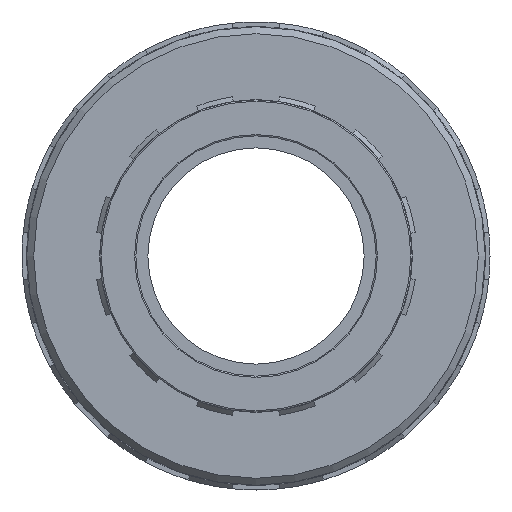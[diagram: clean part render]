
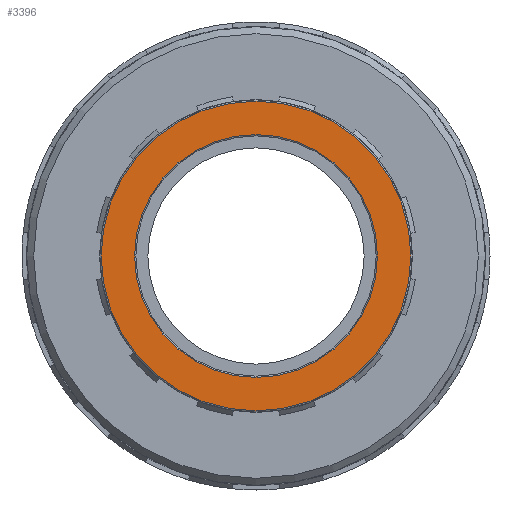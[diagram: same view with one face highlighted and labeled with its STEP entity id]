
A CAD part, left-side view. The second image highlights one B-rep face of the part: STEP entity #3396.
In plain terms, the highlighted planar face has unit normal (-1, 0, 0).
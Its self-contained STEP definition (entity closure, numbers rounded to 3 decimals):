
#29=FACE_BOUND('',#642,.T.);
#234=CIRCLE('',#3731,15.306);
#236=CIRCLE('',#3734,19.526);
#453=FACE_OUTER_BOUND('',#641,.T.);
#641=EDGE_LOOP('',(#2939));
#642=EDGE_LOOP('',(#2940));
#1630=VERTEX_POINT('',#5763);
#1632=VERTEX_POINT('',#5768);
#2112=EDGE_CURVE('',#1630,#1630,#234,.T.);
#2114=EDGE_CURVE('',#1632,#1632,#236,.T.);
#2939=ORIENTED_EDGE('',*,*,#2114,.F.);
#2940=ORIENTED_EDGE('',*,*,#2112,.F.);
#3223=PLANE('',#3733);
#3396=ADVANCED_FACE('',(#453,#29),#3223,.T.);
#3731=AXIS2_PLACEMENT_3D('',#5764,#4726,#4727);
#3733=AXIS2_PLACEMENT_3D('',#5767,#4730,#4731);
#3734=AXIS2_PLACEMENT_3D('',#5769,#4732,#4733);
#4726=DIRECTION('center_axis',(-1.,0.,0.));
#4727=DIRECTION('ref_axis',(0.,1.,0.));
#4730=DIRECTION('center_axis',(-1.,0.,0.));
#4731=DIRECTION('ref_axis',(0.,0.,1.));
#4732=DIRECTION('center_axis',(1.,0.,0.));
#4733=DIRECTION('ref_axis',(0.,1.,0.));
#5763=CARTESIAN_POINT('',(-28.5,-15.306,0.));
#5764=CARTESIAN_POINT('Origin',(-28.5,0.,0.));
#5767=CARTESIAN_POINT('Origin',(-28.5,-15.146,0.));
#5768=CARTESIAN_POINT('',(-28.5,-19.526,0.));
#5769=CARTESIAN_POINT('Origin',(-28.5,0.,0.));
